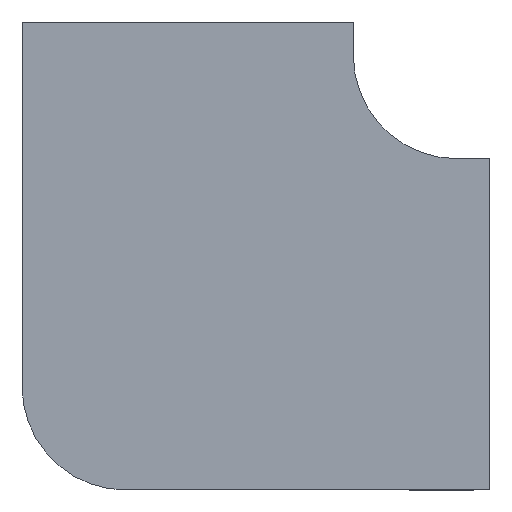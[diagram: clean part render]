
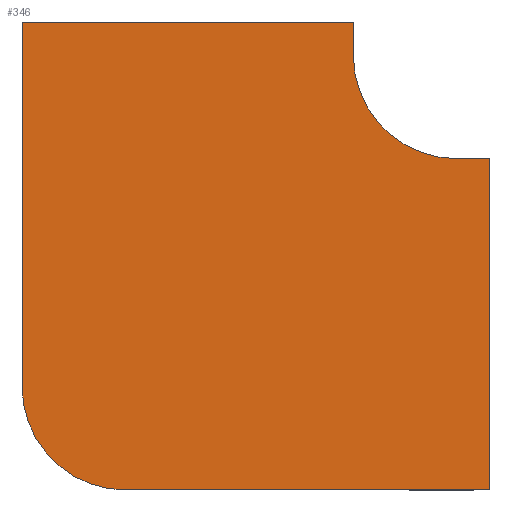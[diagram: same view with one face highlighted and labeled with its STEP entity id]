
A CAD part, front view. The second image highlights one B-rep face of the part: STEP entity #346.
In plain terms, the highlighted planar face has unit normal (0, -1, 0).
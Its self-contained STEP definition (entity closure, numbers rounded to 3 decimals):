
#4 = CARTESIAN_POINT ( 'NONE',  ( -525., 0., 40. ) ) ;
#7 = CARTESIAN_POINT ( 'NONE',  ( 0., 0., -125. ) ) ;
#12 = DIRECTION ( 'NONE',  ( 0., 0., -1. ) ) ;
#16 = CARTESIAN_POINT ( 'NONE',  ( -400., 0., -525. ) ) ;
#27 = LINE ( 'NONE', #1044, #541 ) ;
#57 = VERTEX_POINT ( 'NONE', #363 ) ;
#66 = EDGE_CURVE ( 'NONE', #301, #1649, #100, .T. ) ;
#100 = CIRCLE ( 'NONE', #1253, 125. ) ;
#122 = ORIENTED_EDGE ( 'NONE', *, *, #569, .F. ) ;
#132 = LINE ( 'NONE', #7, #266 ) ;
#177 = ORIENTED_EDGE ( 'NONE', *, *, #904, .F. ) ;
#184 = CARTESIAN_POINT ( 'NONE',  ( -125., 0., 0. ) ) ;
#216 = DIRECTION ( 'NONE',  ( -1., 0., 0. ) ) ;
#257 = CARTESIAN_POINT ( 'NONE',  ( 0., 0., -125. ) ) ;
#258 = PLANE ( 'NONE',  #974 ) ;
#266 = VECTOR ( 'NONE', #524, 1000. ) ;
#301 = VERTEX_POINT ( 'NONE', #184 ) ;
#330 = CARTESIAN_POINT ( 'NONE',  ( 40., 0., -125. ) ) ;
#332 = CARTESIAN_POINT ( 'NONE',  ( 40., 0., -525. ) ) ;
#346 = ADVANCED_FACE ( 'NONE', ( #1002 ), #258, .T. ) ;
#363 = CARTESIAN_POINT ( 'NONE',  ( -525., 0., 40. ) ) ;
#371 = AXIS2_PLACEMENT_3D ( 'NONE', #1370, #1620, #485 ) ;
#408 = DIRECTION ( 'NONE',  ( 0., 0., -1. ) ) ;
#436 = LINE ( 'NONE', #1626, #1308 ) ;
#455 = LINE ( 'NONE', #330, #643 ) ;
#478 = ORIENTED_EDGE ( 'NONE', *, *, #1658, .F. ) ;
#485 = DIRECTION ( 'NONE',  ( 0., 0., 1. ) ) ;
#524 = DIRECTION ( 'NONE',  ( 1., 0., 0. ) ) ;
#541 = VECTOR ( 'NONE', #408, 1000. ) ;
#569 = EDGE_CURVE ( 'NONE', #1384, #1543, #1083, .T. ) ;
#591 = CARTESIAN_POINT ( 'NONE',  ( 40., 0., -125. ) ) ;
#601 = CARTESIAN_POINT ( 'NONE',  ( -125., 0., 40. ) ) ;
#643 = VECTOR ( 'NONE', #1200, 1000. ) ;
#654 = CARTESIAN_POINT ( 'NONE',  ( 0., 0., 0. ) ) ;
#725 = ORIENTED_EDGE ( 'NONE', *, *, #969, .F. ) ;
#872 = CARTESIAN_POINT ( 'NONE',  ( 0., 0., 0. ) ) ;
#891 = DIRECTION ( 'NONE',  ( 1., 0., 0. ) ) ;
#902 = VERTEX_POINT ( 'NONE', #1428 ) ;
#904 = EDGE_CURVE ( 'NONE', #1247, #301, #27, .T. ) ;
#933 = VERTEX_POINT ( 'NONE', #591 ) ;
#942 = DIRECTION ( 'NONE',  ( 0., 0., 1. ) ) ;
#966 = CARTESIAN_POINT ( 'NONE',  ( 40., 0., -525. ) ) ;
#969 = EDGE_CURVE ( 'NONE', #902, #57, #436, .T. ) ;
#974 = AXIS2_PLACEMENT_3D ( 'NONE', #654, #1533, #12 ) ;
#975 = VECTOR ( 'NONE', #216, 1000. ) ;
#1002 = FACE_OUTER_BOUND ( 'NONE', #1386, .T. ) ;
#1020 = EDGE_CURVE ( 'NONE', #933, #1384, #455, .T. ) ;
#1044 = CARTESIAN_POINT ( 'NONE',  ( -125., 0., 40. ) ) ;
#1083 = LINE ( 'NONE', #332, #975 ) ;
#1087 = CIRCLE ( 'NONE', #371, 125. ) ;
#1107 = EDGE_CURVE ( 'NONE', #1543, #902, #1087, .T. ) ;
#1117 = ORIENTED_EDGE ( 'NONE', *, *, #1020, .F. ) ;
#1173 = ORIENTED_EDGE ( 'NONE', *, *, #66, .F. ) ;
#1200 = DIRECTION ( 'NONE',  ( 0., 0., -1. ) ) ;
#1247 = VERTEX_POINT ( 'NONE', #601 ) ;
#1253 = AXIS2_PLACEMENT_3D ( 'NONE', #872, #1389, #1379 ) ;
#1285 = LINE ( 'NONE', #4, #1550 ) ;
#1293 = ORIENTED_EDGE ( 'NONE', *, *, #1570, .F. ) ;
#1308 = VECTOR ( 'NONE', #942, 1000. ) ;
#1370 = CARTESIAN_POINT ( 'NONE',  ( -400., 0., -400. ) ) ;
#1379 = DIRECTION ( 'NONE',  ( 0., 0., -1. ) ) ;
#1384 = VERTEX_POINT ( 'NONE', #966 ) ;
#1386 = EDGE_LOOP ( 'NONE', ( #478, #725, #1412, #122, #1117, #1293, #1173, #177 ) ) ;
#1389 = DIRECTION ( 'NONE',  ( 0., -1., 0. ) ) ;
#1412 = ORIENTED_EDGE ( 'NONE', *, *, #1107, .F. ) ;
#1428 = CARTESIAN_POINT ( 'NONE',  ( -525., 0., -400. ) ) ;
#1533 = DIRECTION ( 'NONE',  ( 0., -1., 0. ) ) ;
#1543 = VERTEX_POINT ( 'NONE', #16 ) ;
#1550 = VECTOR ( 'NONE', #891, 1000. ) ;
#1570 = EDGE_CURVE ( 'NONE', #1649, #933, #132, .T. ) ;
#1620 = DIRECTION ( 'NONE',  ( 0., 1., 0. ) ) ;
#1626 = CARTESIAN_POINT ( 'NONE',  ( -525., 0., -400. ) ) ;
#1649 = VERTEX_POINT ( 'NONE', #257 ) ;
#1658 = EDGE_CURVE ( 'NONE', #57, #1247, #1285, .T. ) ;
